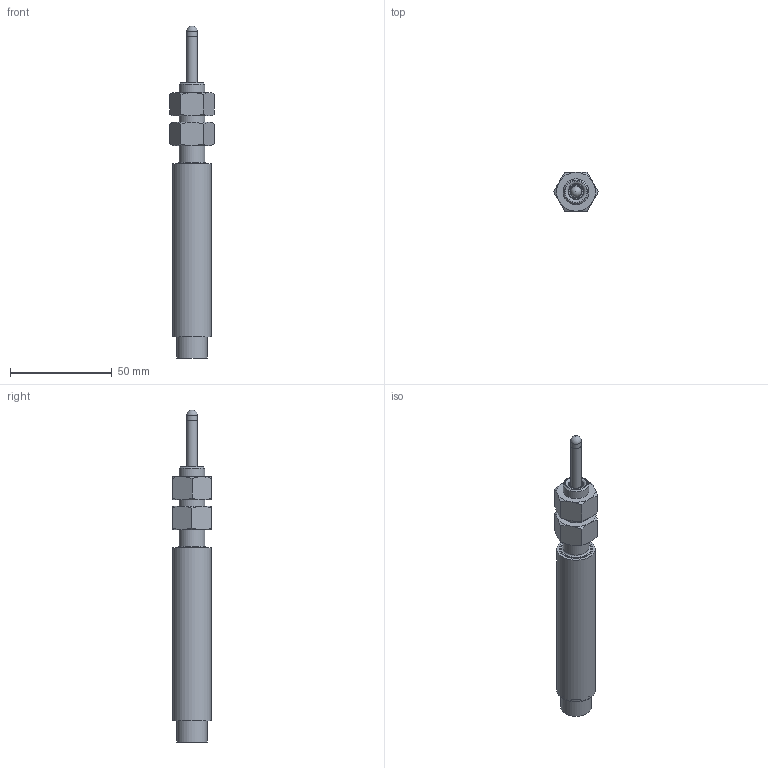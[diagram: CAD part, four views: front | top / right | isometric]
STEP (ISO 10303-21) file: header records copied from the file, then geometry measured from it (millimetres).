
FILE_DESCRIPTION(/* description */ (''),/* implementation_level */ '2;1');
FILE_NAME(/* name */ 'F:\GH SERIES\GH-750-A-XXXX\GH-750-A-250\GH-750-A-250 PACK N GO\GH-750-A-250 ASS''Y.iam.stp',/* time_stamp */ '2021-11-17T12:40:09-05:00',/* author */ ('Justin'),/* organization */ (''),/* preprocessor_version */ 'ST-DEVELOPER v18.1',/* originating_system */ 'Autodesk Inventor 2022',/* authorisation */ '');
FILE_SCHEMA (('AUTOMOTIVE_DESIGN { 1 0 10303 214 3 1 1 }'));
Length unit declared in the file: inch
Products named in the file (4): GH-750-A-250 ASS'Y; GH-750-A-250 HOUSING_SW; GH-750-A-050 SHAFT_SW; AS 2465 - 1/2  UNF
Assembly tree (4 placements, depth 2):
  GH-750-A-250 ASS'Y
    GH-750-A-250 HOUSING_SW
    GH-750-A-050 SHAFT_SW
    AS 2465 - 1/2  UNF  x2
Bounding box: 22 x 19.05 x 162.99 mm (x, y, z)
Volume: 19128.5 mm3; surface area: 20556.9 mm2
Topology: 12 solids, 12 shells, 172 faces, 341 edges, 214 vertices
Faces by surface type: plane 69, cylinder 53, cone 44, torus 4, bspline 1, sphere 1
Full cylindrical faces by diameter (mm): 0.762 x12, 2.845 x3, 4.826 x2, 5.334 x4, 5.397 x1, 7.671 x2, 7.874 x1, 11.328 x2, 12.7 x1, 13.208 x1, 14.986 x1, 15.748 x2, 16.51 x1, 17.069 x1, 18.034 x1, 18.415 x3, 19.05 x1
Entity records: 4304 total; most frequent: CARTESIAN_POINT 814, DIRECTION 730, ORIENTED_EDGE 578, AXIS2_PLACEMENT_3D 309, EDGE_CURVE 289, EDGE_LOOP 186, VERTEX_POINT 185, CIRCLE 153
